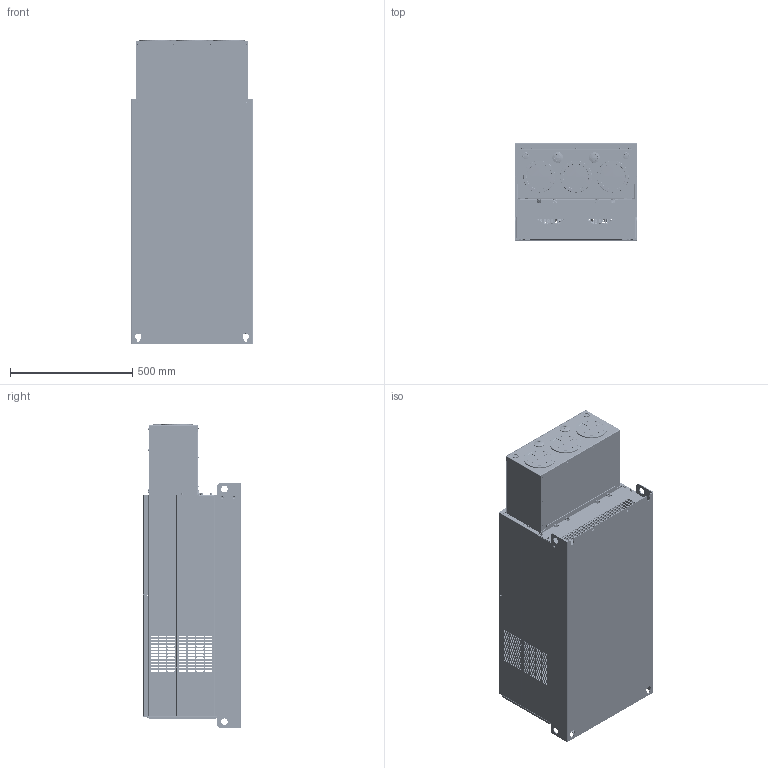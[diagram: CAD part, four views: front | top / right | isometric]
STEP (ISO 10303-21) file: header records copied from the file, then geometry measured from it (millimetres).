
FILE_DESCRIPTION((''),'2;1');
FILE_NAME('VFD-CP-G2-3D-PD01_ASM','2020-01-10T11:22:18',('COLA.LIU'),(''),'CREO PARAMETRIC BY PTC INC, 2018500','CREO PARAMETRIC BY PTC INC, 2018500','');
FILE_SCHEMA(('AUTOMOTIVE_DESIGN { 1 0 10303 214 1 1 1 1 }'));
Products named in the file (189): PRT0117; PRT0118; PRT0119; PRT0120; ASM0021_ASM_ASM; PRT0121; ASM0022_ASM_ASM; PRT0122; ASM0023_ASM_ASM; PRT0123; PRT0124; PRT0125; ASM0024_ASM_ASM; PRT0126; PRT0127; PRT0128; ASM0025_ASM_ASM; PRT0129; PRT0130; PRT0131; PRT0132; ASM0027_ASM_ASM; PRT0133; PRT0134; PRT0135; PRT0136; PRT0137; ASM0028_ASM_ASM; ASM0026_ASM_ASM; 31050828XX-15_M6_2; PRT0138; ASM0020_ASM_ASM; PRT0139; PRT0140; ASM0031_ASM_ASM; ASM0030_ASM_ASM; PRT0141; PRT0142; ASM0033_ASM_ASM; ASM0032_ASM_ASM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
Assembly tree (363 placements, depth 12):
  VFD-CP-G2-3D-PD01_ASM
    ASM0017_ASM_ASM
      ASM0018_ASM_ASM
        ASM0019_ASM_ASM
          PRT0117
          ASM0020_ASM_ASM
            ASM0021_ASM_ASM
              PRT0118
              PRT0119  x7
              PRT0120  x5
            ASM0022_ASM_ASM
              PRT0121
            ASM0023_ASM_ASM
              PRT0122
            PRT0123  x4
            PRT0124  x2
            ASM0024_ASM_ASM
              PRT0125
            ASM0025_ASM_ASM
              PRT0126
              PRT0127  x2
              PRT0128  x2
            ASM0026_ASM_ASM
              PRT0129
              PRT0130  x7
              ASM0027_ASM_ASM  x3
                PRT0131
                PRT0132
              PRT0133  x7
              PRT0134  x7
              PRT0135  x2
              ASM0028_ASM_ASM  x2
                PRT0136
                PRT0137
            31050828XX-15_M6_2  x2
            PRT0138  x4
          ASM0029_ASM_ASM
            ASM0030_ASM_ASM
              ASM0031_ASM_ASM
                PRT0139
                PRT0140
            ASM0032_ASM_ASM
              ASM0033_ASM_ASM
                PRT0141
                PRT0142
            ASM0034_ASM_ASM
              PRT0143
              31050869XX-M6_2_1  x4
            3105162300-SCREW-M5_2  x2
          ASM0035_ASM_ASM
            ASM0036_ASM_ASM
              PRT0144
              PEM-S-M8-1__2  x4
              PRT0145  x6
            ASM0037_ASM_ASM
              ASM0038_ASM_ASM
                ASM0039_ASM_ASM
                  PRT0146
                  PRT0147
                PRT0148
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Bounding box: 500 x 397.6 x 1240.33 mm (x, y, z)
Volume: 9231153.5 mm3; surface area: 9185806.1 mm2
Topology: 365 solids, 392 shells, 28263 faces, 76367 edges, 50006 vertices
Faces by surface type: plane 16394, cylinder 7925, bspline 1574, cone 1173, torus 1007, sphere 166, extrusion 24
Entity records: 608123 total; most frequent: CARTESIAN_POINT 179803, ORIENTED_EDGE 80606, DIRECTION 79259, EDGE_CURVE 40303, VECTOR 27398, LINE 27377, VERTEX_POINT 26207, AXIS2_PLACEMENT_3D 25681
